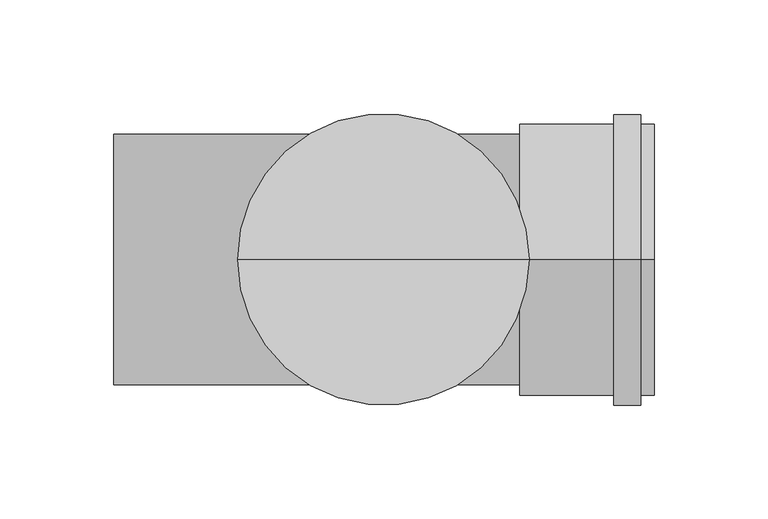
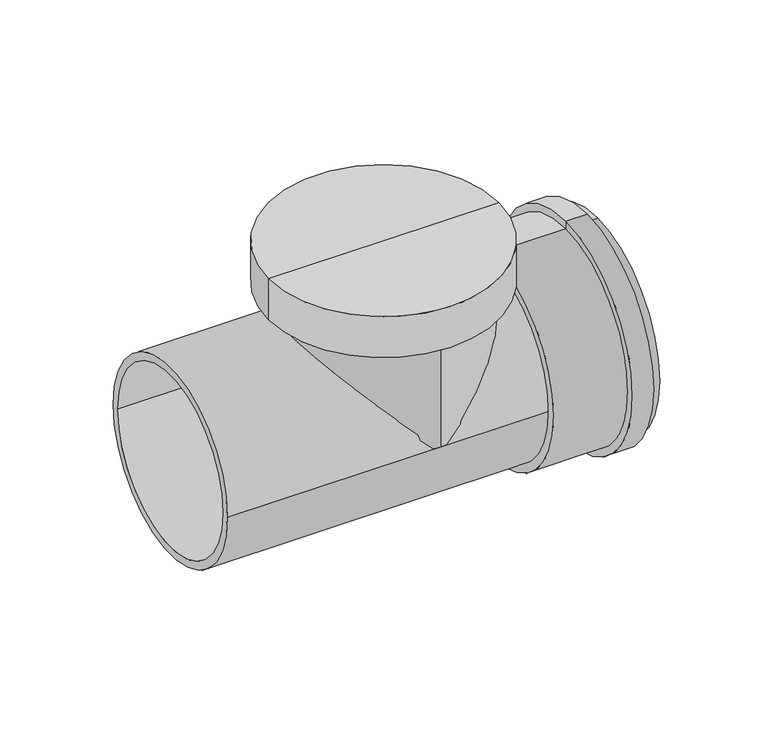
"""IFC4 building model written with IfcOpenShell, lengths in millimetres: pipe fitting geometry, PIF_KW PP rewizja comfort plus_Pipelife : KW PP rewizja, szary (DN50-110)."""

from ifc_helpers import new_model, si_unit, point, frame, origin, origin_with_axes, origin_2d, place, context, project, spatial, polyline, circle_curve, trimmed, segment, composite_curve, outline, extrude, source, transform, mapped, element, save
from ifc_brep_helpers import plane_surface, cylinder_surface, revolved_surface, advanced_brep


def pipe_fitting_4355b6e5(model_context):
    return source(origin(), model_context, "Body", "SolidModel", [
        advanced_brep(
        [(119.0, 0.0, -59.7), (119.0, 0.0, 59.7), (119.0, 0.0, 51.55), (119.0, 0.0, -51.55), (113.1, 0.0, -59.7), (113.1, 0.0, 59.7), (113.1, 0.0, -64.0), (113.1, 0.0, 64.0), (101.3, 0.0, -64.0), (101.3, 0.0, 64.0), (101.3, 0.0, -59.7), (101.3, 0.0, 59.7), (60.0, 0.0, -59.7), (60.0, 0.0, 59.7), (60.0, 0.0, -51.55), (60.0, 0.0, 51.55)],
        [
            (0, 1, circle_curve(frame((119.0, 0.0, 0.0), z_axis=(1.0, 0.0, 0.0), x_axis=(0.0, 0.0, 1.0)), 59.7)),
            (1, 2),
            (2, 3, circle_curve(frame((119.0, 0.0, 0.0), z_axis=(-1.0, 0.0, 0.0), x_axis=(0.0, 0.0, 1.0)), 51.55)),
            (3, 0),
            (1, 0, circle_curve(frame((119.0, 0.0, 0.0), z_axis=(1.0, 0.0, 0.0), x_axis=(0.0, 0.0, 1.0)), 59.7)),
            (3, 2, circle_curve(frame((119.0, 0.0, 0.0), z_axis=(-1.0, 0.0, 0.0), x_axis=(0.0, 0.0, 1.0)), 51.55)),
            (4, 5, circle_curve(frame((113.1, 0.0, 0.0), z_axis=(1.0, 0.0, 0.0), x_axis=(0.0, 0.0, 1.0)), 59.7)),
            (5, 1),
            (0, 4),
            (5, 4, circle_curve(frame((113.1, 0.0, 0.0), z_axis=(1.0, 0.0, 0.0), x_axis=(0.0, 0.0, 1.0)), 59.7)),
            (6, 7, circle_curve(frame((113.1, 0.0, 0.0), z_axis=(1.0, 0.0, 0.0), x_axis=(0.0, 0.0, 1.0)), 64.0)),
            (7, 5),
            (4, 6),
            (7, 6, circle_curve(frame((113.1, 0.0, 0.0), z_axis=(1.0, 0.0, 0.0), x_axis=(0.0, 0.0, 1.0)), 64.0)),
            (8, 9, circle_curve(frame((101.3, 0.0, 0.0), z_axis=(1.0, 0.0, 0.0), x_axis=(0.0, 0.0, 1.0)), 64.0)),
            (9, 7),
            (6, 8),
            (9, 8, circle_curve(frame((101.3, 0.0, 0.0), z_axis=(1.0, 0.0, 0.0), x_axis=(0.0, 0.0, 1.0)), 64.0)),
            (10, 11, circle_curve(frame((101.3, 0.0, 0.0), z_axis=(1.0, 0.0, 0.0), x_axis=(0.0, 0.0, 1.0)), 59.7)),
            (11, 9),
            (8, 10),
            (11, 10, circle_curve(frame((101.3, 0.0, 0.0), z_axis=(1.0, 0.0, 0.0), x_axis=(0.0, 0.0, 1.0)), 59.7)),
            (12, 13, circle_curve(frame((60.0, 0.0, 0.0), z_axis=(1.0, 0.0, 0.0), x_axis=(0.0, 0.0, 1.0)), 59.7)),
            (13, 11),
            (10, 12),
            (13, 12, circle_curve(frame((60.0, 0.0, 0.0), z_axis=(1.0, 0.0, 0.0), x_axis=(0.0, 0.0, 1.0)), 59.7)),
            (14, 15, circle_curve(frame((60.0, 0.0, 0.0), z_axis=(1.0, 0.0, 0.0), x_axis=(0.0, 0.0, 1.0)), 51.55)),
            (15, 13),
            (12, 14),
            (15, 14, circle_curve(frame((60.0, 0.0, 0.0), z_axis=(1.0, 0.0, 0.0), x_axis=(0.0, 0.0, 1.0)), 51.55)),
            (2, 15),
            (14, 3),
        ],
        [
            plane_surface(frame((119.0, 0.0, 0.0), z_axis=(1.0, 0.0, 0.0), x_axis=(0.0, 0.0, 1.0))),
            cylinder_surface(frame((60.0, 0.0, 0.0), z_axis=(-1.0, 0.0, 0.0), x_axis=(0.0, 0.0, 1.0)), 59.7),
            plane_surface(frame((113.1, 0.0, 0.0), z_axis=(1.0, 0.0, 0.0), x_axis=(0.0, 0.0, 1.0))),
            cylinder_surface(frame((60.0, 0.0, 0.0), z_axis=(-1.0, 0.0, 0.0), x_axis=(0.0, 0.0, 1.0)), 64.0),
            plane_surface(frame((101.3, 0.0, 0.0), z_axis=(-1.0, 0.0, 0.0), x_axis=(0.0, 0.0, 1.0))),
            plane_surface(frame((60.0, 0.0, 0.0), z_axis=(-1.0, 0.0, 0.0), x_axis=(0.0, 0.0, 1.0))),
            revolved_surface(polyline([(60.0, 0.0, 51.55), (119.0, 0.0, 51.55)]), (60.0, 0.0, 0.0), (-1.0, 0.0, 0.0)),
        ],
        [
            (0, [[1, 2, 3, 4]]),
            (0, [[5, -4, 6, -2]]),
            (1, [[7, 8, -1, 9]]),
            (1, [[10, -9, -5, -8]]),
            (2, [[11, 12, -7, 13]]),
            (2, [[14, -13, -10, -12]]),
            (3, [[15, 16, -11, 17]]),
            (3, [[18, -17, -14, -16]]),
            (4, [[19, 20, -15, 21]]),
            (4, [[22, -21, -18, -20]]),
            (1, [[23, 24, -19, 25]]),
            (1, [[26, -25, -22, -24]]),
            (5, [[27, 28, -23, 29]]),
            (5, [[30, -29, -26, -28]]),
            (6, [[-3, 31, -27, 32]]),
            (6, [[-6, -32, -30, -31]]),
        ],
    ),
        advanced_brep(
        [(64.0, 0.0, 64.0), (-64.0, 0.0, 64.0), (-64.0, 0.0, 88.0), (64.0, 0.0, 88.0), (55.0, 0.0, 64.0), (-55.0, 0.0, 64.0), (55.0, 0.0, 59.0), (-55.0, 0.0, 59.0), (0.0, 0.0, 59.0), (0.0, 0.0, 88.0)],
        [
            (0, 1, circle_curve(frame((0.0, 0.0, 64.0), z_axis=(0.0, 0.0, 1.0), x_axis=(-1.0, 0.0, 0.0)), 64.0)),
            (1, 2),
            (2, 3, circle_curve(frame((0.0, 0.0, 88.0), z_axis=(0.0, 0.0, -1.0), x_axis=(-1.0, 0.0, 0.0)), 64.0)),
            (3, 0),
            (1, 0, circle_curve(frame((0.0, 0.0, 64.0), z_axis=(0.0, 0.0, 1.0), x_axis=(-1.0, 0.0, 0.0)), 64.0)),
            (3, 2, circle_curve(frame((0.0, 0.0, 88.0), z_axis=(0.0, 0.0, -1.0), x_axis=(-1.0, 0.0, 0.0)), 64.0)),
            (4, 5, circle_curve(frame((0.0, 0.0, 64.0), z_axis=(0.0, 0.0, 1.0), x_axis=(-1.0, 0.0, 0.0)), 55.0)),
            (5, 1),
            (0, 4),
            (5, 4, circle_curve(frame((0.0, 0.0, 64.0), z_axis=(0.0, 0.0, 1.0), x_axis=(-1.0, 0.0, 0.0)), 55.0)),
            (6, 7, circle_curve(frame((0.0, 0.0, 59.0), z_axis=(0.0, 0.0, 1.0), x_axis=(-1.0, 0.0, 0.0)), 55.0)),
            (7, 5),
            (4, 6),
            (7, 6, circle_curve(frame((0.0, 0.0, 59.0), z_axis=(0.0, 0.0, 1.0), x_axis=(-1.0, 0.0, 0.0)), 55.0)),
            (8, 7),
            (6, 8),
            (2, 9),
            (9, 3),
        ],
        [
            cylinder_surface(frame((0.0, 0.0, 88.6), z_axis=(0.0, 0.0, -1.0), x_axis=(-1.0, 0.0, 0.0)), 64.0),
            plane_surface(frame((0.0, 0.0, 64.0), z_axis=(0.0, 0.0, -1.0), x_axis=(-1.0, 0.0, 0.0))),
            cylinder_surface(frame((0.0, 0.0, 88.6), z_axis=(0.0, 0.0, -1.0), x_axis=(-1.0, 0.0, 0.0)), 55.0),
            plane_surface(frame((0.0, 0.0, 59.0), z_axis=(0.0, 0.0, -1.0), x_axis=(-1.0, 0.0, 0.0))),
            plane_surface(frame((0.0, 0.0, 88.0), z_axis=(0.0, 0.0, 1.0), x_axis=(-1.0, 0.0, 0.0))),
        ],
        [
            (0, [[1, 2, 3, 4]]),
            (0, [[5, -4, 6, -2]]),
            (1, [[7, 8, -1, 9]]),
            (1, [[10, -9, -5, -8]]),
            (2, [[11, 12, -7, 13]]),
            (2, [[14, -13, -10, -12]]),
            (3, [[15, -11, 16]]),
            (3, [[-16, -14, -15]]),
            (4, [[-3, 17, 18]]),
            (4, [[-6, -18, -17]]),
        ],
    ),
        extrude(outline(composite_curve([segment(trimmed(circle_curve(origin_2d(), 55.0), [point((0.0, 55.0))], [point((0.0, -55.0))], False, "CARTESIAN"), True, "CONTINUOUS"), segment(trimmed(circle_curve(origin_2d(), 55.0), [point((0.0, -55.0))], [point((0.0, 55.0))], False, "CARTESIAN"), True, "CONTINUOUS")], self_intersect=False), holes=[composite_curve([segment(trimmed(circle_curve(origin_2d(), 51.45), [point((0.0, 51.45))], [point((0.0, -51.45))], True, "CARTESIAN"), True, "CONTINUOUS"), segment(trimmed(circle_curve(origin_2d(), 51.45), [point((0.0, -51.45))], [point((0.0, 51.45))], True, "CARTESIAN"), True, "CONTINUOUS")], self_intersect=False)]), origin_with_axes(), (0.0, 0.0, 1.0), 59.0),
        extrude(outline(composite_curve([segment(trimmed(circle_curve(origin_2d(), 55.0), [point((55.0, 0.0))], [point((-55.0, 0.0))], False, "CARTESIAN"), True, "CONTINUOUS"), segment(trimmed(circle_curve(origin_2d(), 55.0), [point((-55.0, 0.0))], [point((55.0, 0.0))], False, "CARTESIAN"), True, "CONTINUOUS")], self_intersect=False), holes=[composite_curve([segment(trimmed(circle_curve(origin_2d(), 50.5), [point((50.5, 0.0))], [point((-50.5, 0.0))], True, "CARTESIAN"), True, "CONTINUOUS"), segment(trimmed(circle_curve(origin_2d(), 50.5), [point((-50.5, 0.0))], [point((50.5, 0.0))], True, "CARTESIAN"), True, "CONTINUOUS")], self_intersect=False)]), frame((-118.5, 0.0, 0.0), z_axis=(1.0, 0.0, 0.0), x_axis=(0.0, 1.0, 0.0)), (0.0, 0.0, 1.0), 178.5),
    ])


if __name__ == "__main__":
    model = new_model("IFC4")
    model_context = context("Model", 3, world=origin())
    ifc_project = project(units=[si_unit("LENGTHUNIT", "METRE", prefix="MILLI")], contexts=[model_context])
    site = spatial("IfcSite", under=ifc_project)
    building = spatial("IfcBuilding", under=site)
    placement = place(None, origin())
    pipe_fitting_shape = pipe_fitting_4355b6e5(model_context)
    element("IfcPipeFitting", 1, ObjectType="PIF_KW PP rewizja comfort plus_Pipelife : KW PP rewizja, szary (DN50-110)", at=placement, inside=building, context=model_context, shape_type="MappedRepresentation", body=[
        mapped(pipe_fitting_shape, transform((0.0, 0.0, 0.0), x_axis=(1.0, 0.0, 0.0), y_axis=(0.0, 1.0, 0.0), z_axis=(0.0, 0.0, 1.0))),
    ])
    save(model, "model.ifc")
